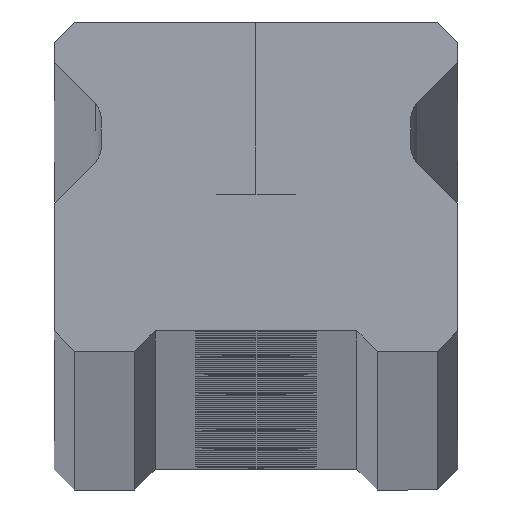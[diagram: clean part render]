
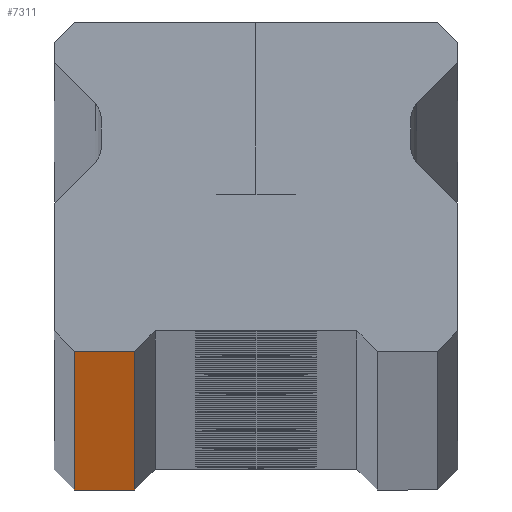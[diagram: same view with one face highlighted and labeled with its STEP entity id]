
A CAD part, top view. The second image highlights one B-rep face of the part: STEP entity #7311.
In plain terms, the highlighted planar face has unit normal (0, -1, 0).
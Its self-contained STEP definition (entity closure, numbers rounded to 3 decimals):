
#18 = CARTESIAN_POINT ( 'NONE',  ( 10., 0., 1970. ) ) ;
#35 = DIRECTION ( 'NONE',  ( 0., 0., 1. ) ) ;
#86 = VECTOR ( 'NONE', #5152, 1000. ) ;
#512 = VERTEX_POINT ( 'NONE', #9113 ) ;
#631 = EDGE_CURVE ( 'NONE', #8885, #9731, #4628, .T. ) ;
#753 = CARTESIAN_POINT ( 'NONE',  ( 10., 0., 1970. ) ) ;
#1407 = EDGE_CURVE ( 'NONE', #3591, #9731, #6095, .T. ) ;
#1532 = FACE_OUTER_BOUND ( 'NONE', #10290, .T. ) ;
#1721 = CARTESIAN_POINT ( 'NONE',  ( -6., 0., -1970. ) ) ;
#2383 = VECTOR ( 'NONE', #35, 1000. ) ;
#3048 = LINE ( 'NONE', #9345, #86 ) ;
#3591 = VERTEX_POINT ( 'NONE', #4341 ) ;
#3831 = VECTOR ( 'NONE', #9370, 1000. ) ;
#4199 = PLANE ( 'NONE',  #9157 ) ;
#4243 = ORIENTED_EDGE ( 'NONE', *, *, #5616, .T. ) ;
#4341 = CARTESIAN_POINT ( 'NONE',  ( -9., 0., 1970. ) ) ;
#4628 = LINE ( 'NONE', #1721, #2383 ) ;
#5152 = DIRECTION ( 'NONE',  ( 1., 0., 0. ) ) ;
#5616 = EDGE_CURVE ( 'NONE', #512, #8885, #3048, .T. ) ;
#5666 = ORIENTED_EDGE ( 'NONE', *, *, #1407, .F. ) ;
#6095 = LINE ( 'NONE', #753, #3831 ) ;
#6148 = EDGE_CURVE ( 'NONE', #3591, #512, #7432, .T. ) ;
#6708 = ORIENTED_EDGE ( 'NONE', *, *, #631, .T. ) ;
#6826 = DIRECTION ( 'NONE',  ( -1., 0., 0. ) ) ;
#6860 = DIRECTION ( 'NONE',  ( 0., 1., 0. ) ) ;
#7311 = ADVANCED_FACE ( 'NONE', ( #1532 ), #4199, .F. ) ;
#7378 = CARTESIAN_POINT ( 'NONE',  ( -6., 0., 1970. ) ) ;
#7432 = LINE ( 'NONE', #10387, #9426 ) ;
#8261 = ORIENTED_EDGE ( 'NONE', *, *, #6148, .T. ) ;
#8694 = DIRECTION ( 'NONE',  ( 0., 0., -1. ) ) ;
#8885 = VERTEX_POINT ( 'NONE', #10700 ) ;
#9113 = CARTESIAN_POINT ( 'NONE',  ( -9., 0., -1970. ) ) ;
#9157 = AXIS2_PLACEMENT_3D ( 'NONE', #18, #6860, #6826 ) ;
#9345 = CARTESIAN_POINT ( 'NONE',  ( 10., 0., -1970. ) ) ;
#9370 = DIRECTION ( 'NONE',  ( 1., 0., 0. ) ) ;
#9426 = VECTOR ( 'NONE', #8694, 1000. ) ;
#9731 = VERTEX_POINT ( 'NONE', #7378 ) ;
#10290 = EDGE_LOOP ( 'NONE', ( #4243, #6708, #5666, #8261 ) ) ;
#10387 = CARTESIAN_POINT ( 'NONE',  ( -9., 0., 1970. ) ) ;
#10700 = CARTESIAN_POINT ( 'NONE',  ( -6., 0., -1970. ) ) ;
